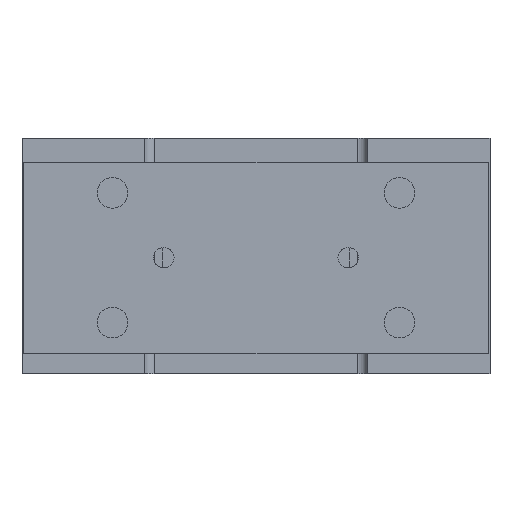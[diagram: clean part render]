
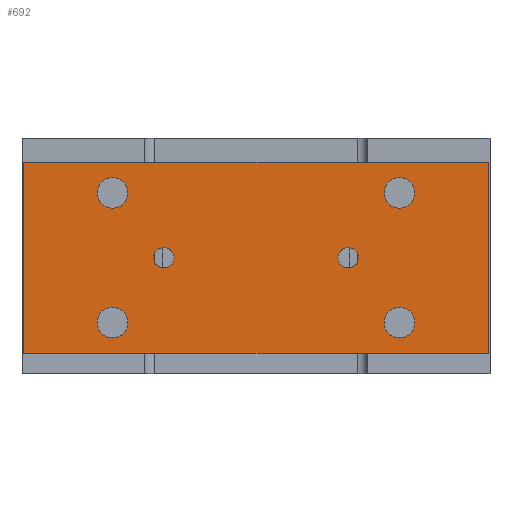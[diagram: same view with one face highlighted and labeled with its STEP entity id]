
A CAD part, left-side view. The second image highlights one B-rep face of the part: STEP entity #692.
In plain terms, the highlighted planar face has unit normal (-1, 0, 0).
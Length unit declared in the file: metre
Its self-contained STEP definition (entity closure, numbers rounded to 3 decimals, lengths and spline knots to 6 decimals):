
#692 = ADVANCED_FACE( '', ( #1538, #1539, #1540, #1541, #1542, #1543, #1544 ), #1545, .T. );
#1538 = FACE_BOUND( '', #2394, .T. );
#1539 = FACE_BOUND( '', #2395, .T. );
#1540 = FACE_BOUND( '', #2396, .T. );
#1541 = FACE_BOUND( '', #2397, .T. );
#1542 = FACE_BOUND( '', #2398, .T. );
#1543 = FACE_BOUND( '', #2399, .T. );
#1544 = FACE_OUTER_BOUND( '', #2400, .T. );
#1545 = PLANE( '', #2401 );
#2394 = EDGE_LOOP( '', ( #4006 ) );
#2395 = EDGE_LOOP( '', ( #4007 ) );
#2396 = EDGE_LOOP( '', ( #4008 ) );
#2397 = EDGE_LOOP( '', ( #4009 ) );
#2398 = EDGE_LOOP( '', ( #4010 ) );
#2399 = EDGE_LOOP( '', ( #4011 ) );
#2400 = EDGE_LOOP( '', ( #4012, #4013, #4014, #4015 ) );
#2401 = AXIS2_PLACEMENT_3D( '', #4016, #4017, #4018 );
#4006 = ORIENTED_EDGE( '', *, *, #4549, .F. );
#4007 = ORIENTED_EDGE( '', *, *, #4335, .F. );
#4008 = ORIENTED_EDGE( '', *, *, #4538, .F. );
#4009 = ORIENTED_EDGE( '', *, *, #4310, .F. );
#4010 = ORIENTED_EDGE( '', *, *, #4551, .F. );
#4011 = ORIENTED_EDGE( '', *, *, #4115, .T. );
#4012 = ORIENTED_EDGE( '', *, *, #4340, .T. );
#4013 = ORIENTED_EDGE( '', *, *, #4294, .T. );
#4014 = ORIENTED_EDGE( '', *, *, #4379, .T. );
#4015 = ORIENTED_EDGE( '', *, *, #4418, .T. );
#4016 = CARTESIAN_POINT( '', ( -0.1025, -0.068, -0.007 ) );
#4017 = DIRECTION( '', ( -1., 0., 0. ) );
#4018 = DIRECTION( '', ( 0., 0., 1. ) );
#4115 = EDGE_CURVE( '', #4759, #4759, #4760, .T. );
#4294 = EDGE_CURVE( '', #5050, #5048, #5051, .T. );
#4310 = EDGE_CURVE( '', #5073, #5073, #5074, .T. );
#4335 = EDGE_CURVE( '', #5110, #5110, #5111, .T. );
#4340 = EDGE_CURVE( '', #5117, #5050, #5118, .T. );
#4379 = EDGE_CURVE( '', #5048, #5172, #5174, .T. );
#4418 = EDGE_CURVE( '', #5172, #5117, #5227, .T. );
#4538 = EDGE_CURVE( '', #5395, #5395, #5396, .T. );
#4549 = EDGE_CURVE( '', #5410, #5410, #5411, .T. );
#4551 = EDGE_CURVE( '', #5413, #5413, #5414, .T. );
#4759 = VERTEX_POINT( '', #5659 );
#4760 = CIRCLE( '', #5660, 0.003 );
#5048 = VERTEX_POINT( '', #6096 );
#5050 = VERTEX_POINT( '', #6099 );
#5051 = LINE( '', #6100, #6101 );
#5073 = VERTEX_POINT( '', #6164 );
#5074 = CIRCLE( '', #6165, 0.0045 );
#5110 = VERTEX_POINT( '', #6209 );
#5111 = CIRCLE( '', #6210, 0.0045 );
#5117 = VERTEX_POINT( '', #6218 );
#5118 = LINE( '', #6219, #6220 );
#5172 = VERTEX_POINT( '', #6282 );
#5174 = LINE( '', #6285, #6286 );
#5227 = LINE( '', #6348, #6349 );
#5395 = VERTEX_POINT( '', #6650 );
#5396 = CIRCLE( '', #6651, 0.0045 );
#5410 = VERTEX_POINT( '', #6668 );
#5411 = CIRCLE( '', #6669, 0.0045 );
#5413 = VERTEX_POINT( '', #6671 );
#5414 = CIRCLE( '', #6672, 0.003 );
#5659 = CARTESIAN_POINT( '', ( -0.1025, 0.024, -0.035 ) );
#5660 = AXIS2_PLACEMENT_3D( '', #6952, #6953, #6954 );
#6096 = CARTESIAN_POINT( '', ( -0.1025, 0.068, -0.007 ) );
#6099 = CARTESIAN_POINT( '', ( -0.1025, -0.068, -0.007 ) );
#6100 = CARTESIAN_POINT( '', ( -0.1025, -0.068, -0.007 ) );
#6101 = VECTOR( '', #7176, 1. );
#6164 = CARTESIAN_POINT( '', ( -0.1025, 0.0375, -0.016 ) );
#6165 = AXIS2_PLACEMENT_3D( '', #7188, #7189, #7190 );
#6209 = CARTESIAN_POINT( '', ( -0.1025, 0.0375, -0.054 ) );
#6210 = AXIS2_PLACEMENT_3D( '', #7220, #7221, #7222 );
#6218 = CARTESIAN_POINT( '', ( -0.1025, -0.068, -0.063 ) );
#6219 = CARTESIAN_POINT( '', ( -0.1025, -0.068, -0.063 ) );
#6220 = VECTOR( '', #7225, 1. );
#6282 = CARTESIAN_POINT( '', ( -0.1025, 0.068, -0.063 ) );
#6285 = CARTESIAN_POINT( '', ( -0.1025, 0.068, -0.007 ) );
#6286 = VECTOR( '', #7277, 1. );
#6348 = CARTESIAN_POINT( '', ( -0.1025, 0.068, -0.063 ) );
#6349 = VECTOR( '', #7323, 1. );
#6650 = CARTESIAN_POINT( '', ( -0.1025, -0.0465, -0.016 ) );
#6651 = AXIS2_PLACEMENT_3D( '', #7454, #7455, #7456 );
#6668 = CARTESIAN_POINT( '', ( -0.1025, -0.0465, -0.054 ) );
#6669 = AXIS2_PLACEMENT_3D( '', #7463, #7464, #7465 );
#6671 = CARTESIAN_POINT( '', ( -0.1025, -0.024, -0.035 ) );
#6672 = AXIS2_PLACEMENT_3D( '', #7466, #7467, #7468 );
#6952 = CARTESIAN_POINT( '', ( -0.1025, 0.027, -0.035 ) );
#6953 = DIRECTION( '', ( 1., 0., 0. ) );
#6954 = DIRECTION( '', ( 0., -1., 0. ) );
#7176 = DIRECTION( '', ( 0., 1., 0. ) );
#7188 = CARTESIAN_POINT( '', ( -0.1025, 0.042, -0.016 ) );
#7189 = DIRECTION( '', ( -1., 0., 0. ) );
#7190 = DIRECTION( '', ( 0., -1., 0. ) );
#7220 = CARTESIAN_POINT( '', ( -0.1025, 0.042, -0.054 ) );
#7221 = DIRECTION( '', ( -1., 0., 0. ) );
#7222 = DIRECTION( '', ( 0., -1., 0. ) );
#7225 = DIRECTION( '', ( 0., 0., 1. ) );
#7277 = DIRECTION( '', ( 0., 0., -1. ) );
#7323 = DIRECTION( '', ( 0., -1., 0. ) );
#7454 = CARTESIAN_POINT( '', ( -0.1025, -0.042, -0.016 ) );
#7455 = DIRECTION( '', ( -1., 0., 0. ) );
#7456 = DIRECTION( '', ( 0., -1., 0. ) );
#7463 = CARTESIAN_POINT( '', ( -0.1025, -0.042, -0.054 ) );
#7464 = DIRECTION( '', ( -1., 0., 0. ) );
#7465 = DIRECTION( '', ( 0., -1., 0. ) );
#7466 = CARTESIAN_POINT( '', ( -0.1025, -0.027, -0.035 ) );
#7467 = DIRECTION( '', ( -1., 0., 0. ) );
#7468 = DIRECTION( '', ( 0., 1., 0. ) );
